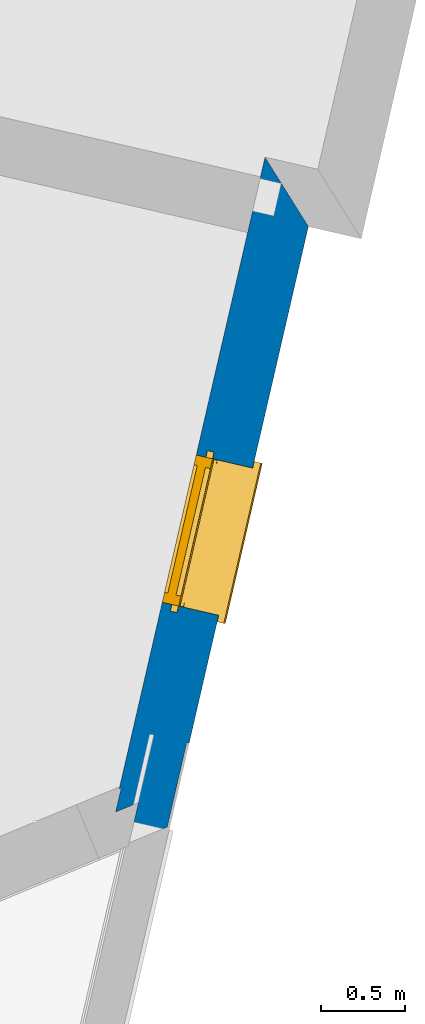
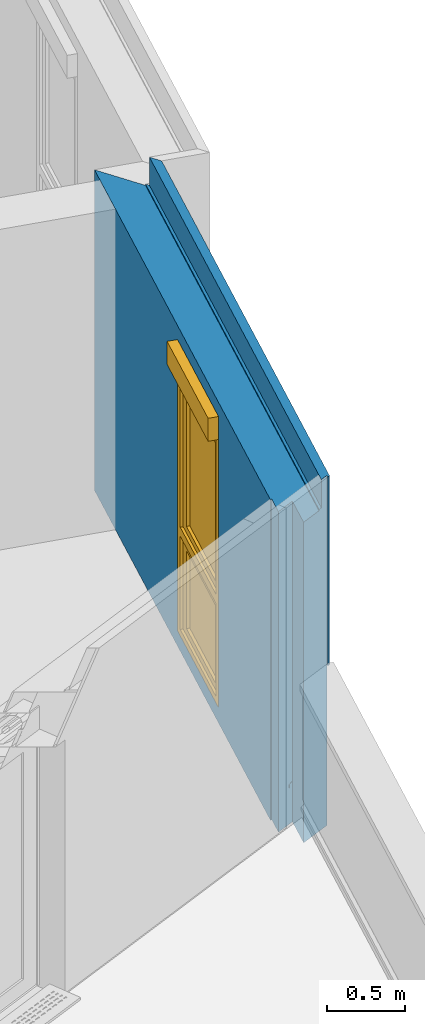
# One storey, part 6 of 62: 1 wall, 1 window, 1 opening.
"""IFC2X3 building model written with IfcOpenShell, lengths in metres."""

from ifc_helpers import new_model, entity, si_unit, converted_unit, derived_unit, money_unit, direction, frame, origin_with_axes, place, context, subcontext, project, spatial, open_shell, faceted_brep, surface_model, source, transform, mapped, material, material_list, type_object, element, fill, save


model = new_model("IFC2X3")

# Units and contexts
model_context = context("Model", 3, precision=1e-05, world=origin_with_axes(), true_north=direction((0.0, 1.0)))
body_context = subcontext(model_context, "Body", "Model", "MODEL_VIEW")
ifc_project = project(units=[si_unit("LENGTHUNIT", "METRE"), si_unit("AREAUNIT", "SQUARE_METRE"), si_unit("VOLUMEUNIT", "CUBIC_METRE"), converted_unit("PLANEANGLEUNIT", "DEGREE", entity("IfcPlaneAngleMeasure", 0.0174532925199), si_unit("PLANEANGLEUNIT", "RADIAN"), dimensions=[0, 0, 0, 0, 0, 0, 0]), si_unit("SOLIDANGLEUNIT", "STERADIAN"), money_unit("EUR"), converted_unit("TIMEUNIT", "Year", entity("IfcTimeMeasure", 31556926.0), si_unit("TIMEUNIT", "SECOND"), dimensions=[0, 0, 1, 0, 0, 0, 0]), si_unit("MASSUNIT", "GRAM", prefix="KILO"), si_unit("THERMODYNAMICTEMPERATUREUNIT", "DEGREE_CELSIUS"), si_unit("LUMINOUSINTENSITYUNIT", "LUMEN"), si_unit("ENERGYUNIT", "JOULE", prefix="MEGA"), derived_unit("THERMALCONDUCTANCEUNIT", [(si_unit("POWERUNIT", "WATT"), 1), (si_unit("LENGTHUNIT", "METRE"), -1), (si_unit("THERMODYNAMICTEMPERATUREUNIT", "KELVIN"), -1)]), derived_unit("SPECIFICHEATCAPACITYUNIT", [(si_unit("ENERGYUNIT", "JOULE"), 1), (si_unit("MASSUNIT", "GRAM", prefix="KILO"), -1), (si_unit("THERMODYNAMICTEMPERATUREUNIT", "KELVIN"), -1)]), derived_unit("MASSDENSITYUNIT", [(si_unit("MASSUNIT", "GRAM", prefix="KILO"), 1), (si_unit("VOLUMEUNIT", "CUBIC_METRE"), -1)])], contexts=[model_context])

# Site, building, storey
site_placement = place(None, origin_with_axes())
site = spatial("IfcSite", under=ifc_project, at=site_placement, Name="Site", CompositionType="ELEMENT")
building_placement = place(site_placement, origin_with_axes())
building = spatial("IfcBuilding", under=site, at=building_placement, Name="Bâtiment", CompositionType="ELEMENT")
storey_placement = place(building_placement, frame((0.0, 0.0, 8.16), z_axis=(0.0, 0.0, 1.0), x_axis=(1.0, 0.0, 0.0)))
storey = spatial("IfcBuildingStorey", under=building, at=storey_placement, Name="R+3", CompositionType="ELEMENT", Elevation=8.16)

# Wall, opening, window
ifc_material_1 = material(Name="Finition ext - Crépis")
ifc_material_2 = material(Name="Béton cellulaire")
ifc_material_3 = material(Name="Mortier")
ifc_material_4 = material(Name="Bloc ELITHERM")
ifc_material_5 = material(Name="Isolation - Polystyrène extrudé")
ifc_material_6 = material(Name="Finition int - Plaque de plâtre")
ifc_material_list = material_list([ifc_material_1, ifc_material_2, ifc_material_3, ifc_material_4, ifc_material_5, ifc_material_6])
wall_type = type_object("IfcWallType", Name="Mur ALKERN + planelle 23 345 x 2740", PredefinedType="USERDEFINED")
wall_placement = place(storey_placement, frame((-5.36567436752, -10.330394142, 0.0), z_axis=(0.0, 0.0, 1.0), x_axis=(-0.224876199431, -0.974387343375, 0.0)))
wall = element("IfcWall", 1, at=wall_placement, inside=storey, type_object=wall_type, material=ifc_material_list, Name="Mue bloc ALKERN isolé", ObjectType="SOLIDWALL", context=body_context, shape_type="Brep", body=[
    faceted_brep([(1.47550416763, -0.014999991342, 0.12), (1.47550416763, 0.0, 0.12), (1.47550416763, 0.0, 2.22), (1.47550416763, -0.014999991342, 2.22), (1.47550416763, -3.42726869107e-09, 0.06), (1.47550416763, -0.0149999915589, 0.06), (3.15680529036, 1.42903022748e-10, 0.282882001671), (3.15680529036, 1.42903022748e-10, 0.100000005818), (3.15680529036, 1.42903022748e-10, 0.0), (-3.42727268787e-09, -3.42726957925e-09, 0.0), (-3.42727268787e-09, -3.42726957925e-09, 2.74), (3.68069531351, 0.0, 2.74), (3.68069531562, 0.0, 1.26000604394), (3.15680529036, 1.42903022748e-10, 1.26000604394), (3.15680529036, 1.42903022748e-10, 0.357041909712), (3.15680529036, 1.42903022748e-10, 0.318976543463), (3.15680529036, 1.42903022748e-10, 0.30999999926), (2.37550416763, -3.42726780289e-09, 0.06), (2.37550416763, 0.0, 0.12), (2.37550416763, 0.0, 2.22), (2.37550416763, -0.014999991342, 2.22), (3.15680529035, -0.014999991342, 0.318976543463), (3.15680529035, -0.014999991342, 0.357041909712), (3.15680529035, -0.014999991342, 1.26000604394), (3.69140348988, -0.0149999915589, 1.26000604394), (3.69140348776, -0.0150000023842, 2.74), (-0.0146733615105, -0.0150000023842, 2.73999999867), (-0.0146733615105, -0.014999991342, 2.50999999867), (-0.0150000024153, -0.0150000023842, 2.50999999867), (-0.0150000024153, -0.0150000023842, 0.0), (3.15680529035, -0.014999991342, 0.0), (3.15680529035, -0.014999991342, 0.100000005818), (3.15680529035, -0.014999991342, 0.282882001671), (3.15680529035, -0.014999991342, 0.30999999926), (2.37550416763, -0.014999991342, 0.12), (2.37550416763, -0.0149999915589, 0.06), (-0.0146733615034, -0.014673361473, 2.50999999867), (-0.0146733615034, -0.014673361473, 2.73999999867)], [[[0, 1, 2, 3]], [[4, 1, 0, 5]], [[6, 7, 8, 9, 10, 11, 12, 13, 14, 15, 16], [17, 18, 19, 2, 1, 4]], [[19, 20, 3, 2]], [[21, 22, 23, 24, 25, 26, 27, 28, 29, 30, 31, 32, 33], [5, 0, 3, 20, 34, 35]], [[17, 4, 5, 35]], [[32, 31, 7, 6]], [[31, 30, 8, 7]], [[30, 29, 9, 8]], [[28, 36, 37, 10, 9, 29]], [[10, 37, 26, 25, 11]], [[12, 11, 25, 24]], [[12, 24, 23, 13]], [[13, 23, 22, 14]], [[22, 21, 15, 14]], [[21, 33, 16, 15]], [[33, 32, 6, 16]], [[34, 18, 17, 35]], [[18, 34, 20, 19]], [[36, 27, 26, 37]], [[36, 28, 27]]]),
    faceted_brep([(3.7072396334, -0.0630000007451, 2.74), (3.67297348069, -0.015, 2.74), (-0.0150000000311, -0.015, 2.74), (-0.0630000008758, -0.0630000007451, 2.74), (3.67297348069, -0.015, 2.52), (3.7072396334, -0.0630000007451, 2.52), (-0.0150000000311, -0.015, 2.51999999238), (-0.0630000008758, -0.0630000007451, 2.51999999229)], [[[0, 1, 2, 3]], [[4, 1, 0, 5]], [[1, 4, 6, 2]], [[7, 3, 2, 6]], [[5, 0, 3, 7]], [[4, 5, 7, 6]]]),
    faceted_brep([(3.72151719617, -0.082999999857, 2.52), (3.67297348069, -0.015, 2.52), (-0.0150000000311, -0.015, 2.51999999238), (-0.0829999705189, -0.0829999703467, 2.51999999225), (3.67297348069, -0.015, 2.50999999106), (3.72151719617, -0.082999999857, 2.50999999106), (-0.0150000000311, -0.015, 2.51000000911), (-0.0829999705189, -0.0829999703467, 2.50999997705)], [[[0, 1, 2, 3]], [[4, 1, 0, 5]], [[1, 4, 6, 2]], [[7, 3, 2, 6]], [[5, 0, 3, 7]], [[4, 5, 7, 6]]]),
    faceted_brep([(1.47550416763, -0.214999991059, 0.12), (1.47550416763, -0.015, 0.12), (1.47550416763, -0.015, 2.22), (1.47550416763, -0.214999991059, 2.22), (1.47550416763, -0.0150000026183, 0.06), (1.47550416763, -0.214999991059, 0.06), (3.67297348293, -0.0150000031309, 0.318976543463), (3.67297348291, -0.0150000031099, 0.30999999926), (3.67297348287, -0.0150000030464, 0.282882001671), (3.67297348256, -0.0150000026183, 0.100000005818), (3.6729734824, -0.0150000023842, 0.0), (-0.0150000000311, -0.015, 0.0), (-0.0150000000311, -0.015, 2.51000000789), (3.67297348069, -0.015, 2.50999999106), (3.6729734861, -0.0150000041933, 1.26000604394), (3.67297348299, -0.01500000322, 0.357041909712), (2.37550416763, -0.0150000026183, 0.06), (2.37550416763, -0.015, 0.12), (2.37550416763, -0.015, 2.22), (2.37550416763, -0.214999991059, 2.22), (-0.214999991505, -0.214999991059, 0.0), (3.81574910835, -0.214999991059, 0.0), (3.81574910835, -0.214999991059, 0.100000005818), (3.81574910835, -0.214999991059, 0.282882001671), (3.81574910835, -0.214999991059, 0.30999999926), (3.81574910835, -0.214999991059, 0.318976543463), (3.81574910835, -0.214999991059, 0.357041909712), (3.81574910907, -0.214999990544, 1.26000604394), (3.81574910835, -0.214999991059, 2.50999999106), (-0.214999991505, -0.214999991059, 2.50999999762), (2.37550416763, -0.214999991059, 0.12), (2.37550416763, -0.214999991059, 0.06), (-0.0829999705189, -0.0829999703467, 2.50999997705), (3.721517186, -0.0829999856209, 2.50999999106)], [[[0, 1, 2, 3]], [[4, 1, 0, 5]], [[6, 7, 8, 9, 10, 11, 12, 13, 14, 15], [16, 17, 18, 2, 1, 4]], [[18, 19, 3, 2]], [[20, 21, 22, 23, 24, 25, 26, 27, 28, 29], [5, 0, 3, 19, 30, 31]], [[16, 4, 5, 31]], [[25, 24, 7, 6]], [[24, 23, 8, 7]], [[23, 22, 9, 8]], [[22, 21, 10, 9]], [[21, 20, 11, 10]], [[11, 20, 29, 32, 12]], [[13, 12, 32, 33]], [[28, 27, 14, 13, 33]], [[27, 26, 15, 14]], [[26, 25, 6, 15]], [[30, 17, 16, 31]], [[17, 30, 19, 18]], [[33, 32, 29, 28]]]),
    faceted_brep([(1.47550416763, -0.245, 0.12), (1.47550416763, -0.215000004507, 0.12), (1.47550416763, -0.215, 2.22), (1.47550416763, -0.245, 2.22), (1.47550416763, -0.215000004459, 0.06), (1.47550416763, -0.286, 0.12), (1.47550416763, -0.286, 0.06), (3.57001576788, -0.214999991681, 0.282882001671), (3.57001576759, -0.214999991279, 0.100000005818), (3.57001576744, -0.214999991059, 0.0), (-0.215000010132, -0.215000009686, 0.0), (-0.215000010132, -0.215000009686, 2.50999999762), (3.5700157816, -0.215000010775, 2.50999999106), (3.57001576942, -0.21499999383, 1.26000604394), (3.570015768, -0.214999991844, 0.357041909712), (3.15680529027, -0.214999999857, 0.357041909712), (3.15680529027, -0.214999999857, 0.318976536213), (3.57001576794, -0.214999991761, 0.318976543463), (3.57001576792, -0.214999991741, 0.30999999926), (2.37550416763, -0.215000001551, 0.06), (2.37550416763, -0.215000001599, 0.12), (2.37550416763, -0.215, 2.22), (2.37550416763, -0.215, 2.4), (1.47550416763, -0.215, 2.4), (1.47550416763, -0.335000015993, 2.4), (1.47550416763, -0.335000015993, 2.22), (1.47550416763, -0.335000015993, 0.12), (2.37550416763, -0.286, 0.12), (2.37550416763, -0.286, 0.06), (3.58963646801, -0.242484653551, 0.282882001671), (3.65568116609, -0.335000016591, 0.282882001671), (3.65568116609, -0.335000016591, 0.100000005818), (3.58875548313, -0.241250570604, 0.282882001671), (3.65568116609, -0.335000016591, 0.0), (-0.335000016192, -0.335000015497, 0.0), (-0.335000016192, -0.335000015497, 2.51000001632), (3.65568116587, -0.335000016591, 2.50999999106), (3.65568116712, -0.335000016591, 1.26000604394), (3.5707620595, -0.216045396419, 0.357041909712), (3.65568116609, -0.335000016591, 0.357041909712), (3.15680529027, -0.216045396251, 0.357041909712), (3.15680529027, -0.216045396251, 0.320023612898), (3.15680529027, -0.219574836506, 0.318976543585), (3.15680529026, -0.241250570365, 0.311101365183), (3.58875548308, -0.241250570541, 0.311101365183), (3.58875548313, -0.241250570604, 0.30999999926), (2.37550416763, -0.245, 0.12), (2.37550416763, -0.245, 2.22), (2.37550416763, -0.33500001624, 2.22), (2.37550416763, -0.33500001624, 2.4), (3.65568116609, -0.335000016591, 0.30999999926), (3.65568116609, -0.335000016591, 0.318976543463), (2.37550416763, -0.33500001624, 0.12), (3.58963646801, -0.242484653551, 0.30999999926), (3.15680529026, -0.242484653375, 0.282882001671), (3.15680529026, -0.241250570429, 0.282882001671), (3.57328165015, -0.219574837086, 0.318976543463), (3.5707620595, -0.216045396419, 0.320023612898), (3.15680529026, -0.242484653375, 0.312179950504), (3.15680529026, -0.242484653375, 0.30999999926), (3.15680529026, -0.241250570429, 0.30999999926), (3.58963646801, -0.242484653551, 0.312179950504)], [[[0, 1, 2, 3]], [[4, 1, 0, 5, 6]], [[7, 8, 9, 10, 11, 12, 13, 14, 15, 16, 17, 18], [19, 20, 21, 22, 23, 2, 1, 4]], [[24, 25, 3, 2, 23]], [[5, 0, 3, 25, 26]], [[5, 27, 28, 6]], [[19, 4, 6, 28]], [[29, 30, 31, 8, 7, 32]], [[8, 31, 33, 9]], [[10, 9, 33, 34]], [[11, 10, 34, 35]], [[35, 36, 12, 11]], [[12, 36, 37, 13]], [[38, 14, 13, 37, 39]], [[15, 14, 38, 40]], [[16, 15, 40, 41, 42]], [[43, 44, 17, 16]], [[17, 44, 45, 18]], [[18, 45, 32, 7]], [[46, 20, 19, 28, 27]], [[20, 46, 47, 21]], [[47, 48, 49, 22, 21]], [[22, 49, 24, 23]], [[36, 35, 34, 33, 31, 30, 50, 51, 39, 37], [26, 25, 24, 49, 48, 52]], [[27, 5, 26, 52]], [[53, 50, 30, 29]], [[54, 29, 32, 55]], [[56, 57, 38, 39, 51]], [[40, 38, 57, 41]], [[41, 57, 56, 42]], [[58, 59, 60, 43, 16, 42]], [[60, 45, 44, 43]], [[55, 32, 45, 60]], [[46, 27, 52, 48, 47]], [[53, 61, 56, 51, 50]], [[59, 53, 29, 54]], [[54, 55, 60, 59]], [[42, 56, 61, 58]], [[58, 61, 53, 59]]]),
    faceted_brep([(3.50824112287, -0.335000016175, 0.318976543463), (3.50824112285, -0.335000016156, 0.30999999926), (3.50824112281, -0.335000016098, 0.282882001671), (3.50824112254, -0.33500001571, 0.100000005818), (3.50824112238, -0.335000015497, 0.0), (-0.335000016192, -0.335000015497, 0.0), (-0.335000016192, -0.335000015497, 2.51000001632), (3.50824112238, -0.335000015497, 2.51), (3.50824112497, -0.335000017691, 1.26000604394), (3.50824112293, -0.335000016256, 0.357041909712), (2.37550416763, -0.335000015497, 2.22), (2.37550416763, -0.33500001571, 2.4), (1.47550416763, -0.33500001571, 2.4), (1.47550416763, -0.335000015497, 2.22), (1.47550416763, -0.335000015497, 0.12), (2.37550416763, -0.335000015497, 0.12), (3.51537987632, -0.344999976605, 0.318976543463), (3.51537987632, -0.344999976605, 0.30999999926), (3.51537987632, -0.344999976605, 0.282882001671), (3.51537987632, -0.344999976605, 0.100000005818), (3.51537988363, -0.344999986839, 0.0), (-0.344999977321, -0.344999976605, 0.0), (-0.344999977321, -0.344999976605, 2.51000001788), (3.51537988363, -0.344999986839, 2.51), (3.51537987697, -0.344999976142, 1.26000604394), (3.51537987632, -0.344999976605, 0.357041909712), (2.37550416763, -0.344999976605, 2.22), (2.37550416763, -0.344999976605, 2.4), (1.47550416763, -0.344999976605, 2.4), (1.47550416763, -0.344999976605, 2.22), (1.47550416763, -0.344999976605, 0.12), (2.37550416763, -0.344999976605, 0.12)], [[[0, 1, 2, 3, 4, 5, 6, 7, 8, 9], [10, 11, 12, 13, 14, 15]], [[16, 17, 1, 0]], [[17, 18, 2, 1]], [[18, 19, 3, 2]], [[19, 20, 4, 3]], [[20, 21, 5, 4]], [[22, 6, 5, 21]], [[7, 6, 22, 23]], [[7, 23, 24, 8]], [[24, 25, 9, 8]], [[25, 16, 0, 9]], [[11, 10, 26, 27]], [[12, 11, 27, 28]], [[13, 12, 28, 29]], [[13, 29, 30, 14]], [[14, 30, 31, 15]], [[26, 10, 15, 31]], [[21, 20, 19, 18, 17, 16, 25, 24, 23, 22], [27, 26, 31, 30, 29, 28]]]),
])
opening_placement = place(wall_placement, frame((1.92550416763, 0.0, 0.12), z_axis=(0.0, 0.0, 1.0), x_axis=(1.0, 0.0, 0.0)))
opening = element("IfcOpeningElement", 2, at=opening_placement, cuts=wall, Name="MEN 122", context=body_context, shape_type="Brep", body=[
    faceted_brep([(0.45, -0.83499998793, 0.0), (-0.45, -0.83499998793, 0.0), (-0.45, -0.245, 0.0), (0.45, -0.245, 0.0), (0.45, -0.83499998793, 2.1), (-0.45, -0.83499998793, 2.1), (-0.45, -0.245, 2.1), (0.45, -0.245, 2.1)], [[[0, 1, 2, 3]], [[0, 4, 5, 1]], [[1, 5, 6, 2]], [[3, 2, 6, 7]], [[4, 0, 3, 7]], [[5, 4, 7, 6]]]),
    faceted_brep([(0.45, 0.34499998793, 0.0), (0.45, 0.34499998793, 2.1), (0.45, -0.245, 2.1), (0.45, -0.245, 0.0), (-0.45, 0.34499998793, 0.0), (-0.45, 0.34499998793, 2.1), (-0.45, -0.245, 2.1), (-0.45, -0.245, 0.0)], [[[0, 1, 2, 3]], [[0, 4, 5, 1]], [[1, 5, 6, 2]], [[3, 2, 6, 7]], [[4, 0, 3, 7]], [[5, 4, 7, 6]]]),
    faceted_brep([(0.45, 0.34499998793, 0.0), (0.45, 0.34499998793, 2.1), (0.45, -0.245, 2.1), (0.45, -0.245, 0.0), (-0.45, 0.34499998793, 0.0), (-0.45, 0.34499998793, 2.1), (-0.45, -0.245, 2.1), (-0.45, -0.245, 0.0)], [[[0, 1, 2, 3]], [[0, 4, 5, 1]], [[1, 5, 6, 2]], [[3, 2, 6, 7]], [[4, 0, 3, 7]], [[5, 4, 7, 6]]]),
    faceted_brep([(0.45, -0.80499998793, 2.1), (-0.45, -0.80499998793, 2.1), (-0.45, -0.215, 2.1), (0.45, -0.215, 2.1), (0.45, -0.80499998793, 2.28), (-0.45, -0.80499998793, 2.28), (-0.45, -0.215, 2.28), (0.45, -0.215, 2.28)], [[[0, 1, 2, 3]], [[0, 4, 5, 1]], [[1, 5, 6, 2]], [[3, 2, 6, 7]], [[4, 0, 3, 7]], [[5, 4, 7, 6]]]),
    faceted_brep([(0.45, 0.30399998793, 0.0), (-0.45, 0.30399998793, 0.0), (-0.45, -0.286, 0.0), (0.45, -0.286, 0.0), (0.45, 0.30399998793, -0.06), (-0.45, 0.30399998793, -0.06), (-0.45, -0.286, -0.06), (0.45, -0.286, -0.06)], [[[0, 1, 2, 3]], [[0, 4, 5, 1]], [[1, 5, 6, 2]], [[3, 2, 6, 7]], [[4, 0, 3, 7]], [[5, 4, 7, 6]]]),
])
window_style = type_object("IfcWindowStyle", Name="Baie générique 2017 v2", ConstructionType="NOTDEFINED", OperationType="NOTDEFINED", ParameterTakesPrecedence=False, Sizeable=False)
shared_shape = source(origin_with_axes(), body_context, "Body", "SurfaceModel", [
    faceted_brep([(-0.45, 0.0, 2.1), (-0.45, 0.0, 0.0), (0.45, 0.0, 0.0), (0.45, 0.0, 2.1), (0.39, 0.0, 0.85), (-0.39, 0.0, 0.85), (-0.39, 0.0, 2.05), (0.39, 0.0, 2.05), (0.39, 0.0, 0.78), (0.39, 0.0, 0.05), (-0.39, 0.0, 0.05), (-0.39, 0.0, 0.78), (-0.45, 0.1, 2.1), (-0.45, 0.1, 0.0), (0.45, 0.1, 0.0), (0.45, 0.1, 2.1), (0.39, 0.1, 0.85), (-0.39, 0.1, 0.85), (-0.39, 0.1, 2.05), (0.39, 0.1, 2.05), (0.39, 0.1, 0.78), (0.39, 0.1, 0.05), (-0.39, 0.1, 0.05), (-0.39, 0.1, 0.78)], [[[0, 1, 2, 3], [4, 5, 6, 7], [8, 9, 10, 11]], [[0, 12, 13, 1]], [[1, 13, 14, 2]], [[2, 14, 15, 3]], [[3, 15, 12, 0]], [[4, 16, 17, 5]], [[5, 17, 18, 6]], [[6, 18, 19, 7]], [[16, 4, 7, 19]], [[8, 20, 21, 9]], [[9, 21, 22, 10]], [[23, 11, 10, 22]], [[20, 8, 11, 23]], [[14, 13, 12, 15], [16, 19, 18, 17], [20, 23, 22, 21]]]),
    faceted_brep([(0.39, 0.08, 2.05), (0.39, 0.08, 0.85), (-0.39, 0.08, 0.85), (-0.39, 0.08, 2.05), (0.32, 0.08, 1.98), (-0.32, 0.08, 1.98), (-0.32, 0.08, 0.9), (0.32, 0.08, 0.9), (0.39, 0.03, 2.05), (0.39, 0.03, 0.85), (-0.39, 0.03, 0.85), (-0.39, 0.03, 2.05), (0.32, 0.03, 1.98), (-0.32, 0.03, 1.98), (-0.32, 0.03, 0.9), (0.32, 0.03, 0.9)], [[[0, 1, 2, 3], [4, 5, 6, 7]], [[1, 0, 8, 9]], [[10, 2, 1, 9]], [[11, 3, 2, 10]], [[0, 3, 11, 8]], [[5, 4, 12, 13]], [[14, 6, 5, 13]], [[15, 7, 6, 14]], [[4, 7, 15, 12]], [[11, 10, 9, 8], [15, 14, 13, 12]]]),
    surface_model("IfcShellBasedSurfaceModel", [(-0.39, 0.08, 0.85), (-0.39, 0.055, 0.85), (-0.39, 0.055, 2.05), (-0.39, 0.08, 2.05)], [open_shell([[[0, 1, 2, 3]]])]),
    surface_model("IfcShellBasedSurfaceModel", [(0.39, 0.08, 0.85), (0.39, 0.055, 0.85), (0.39, 0.055, 2.05), (0.39, 0.08, 2.05)], [open_shell([[[0, 1, 2, 3]]])]),
    surface_model("IfcShellBasedSurfaceModel", [(-0.39, 0.08, 0.85), (-0.39, 0.055, 0.85), (0.39, 0.055, 0.85), (0.39, 0.08, 0.85)], [open_shell([[[0, 1, 2, 3]]])]),
    surface_model("IfcShellBasedSurfaceModel", [(-0.39, 0.08, 2.05), (-0.39, 0.055, 2.05), (0.39, 0.055, 2.05), (0.39, 0.08, 2.05)], [open_shell([[[0, 1, 2, 3]]])]),
    surface_model("IfcShellBasedSurfaceModel", [(-0.39, 0.055, 0.85), (-0.39, 0.03, 0.85), (-0.39, 0.03, 2.05), (-0.39, 0.055, 2.05)], [open_shell([[[0, 1, 2, 3]]])]),
    surface_model("IfcShellBasedSurfaceModel", [(0.39, 0.055, 0.85), (0.39, 0.03, 0.85), (0.39, 0.03, 2.05), (0.39, 0.055, 2.05)], [open_shell([[[0, 1, 2, 3]]])]),
    surface_model("IfcShellBasedSurfaceModel", [(-0.39, 0.055, 0.85), (-0.39, 0.03, 0.85), (0.39, 0.03, 0.85), (0.39, 0.055, 0.85)], [open_shell([[[0, 1, 2, 3]]])]),
    surface_model("IfcShellBasedSurfaceModel", [(-0.39, 0.055, 2.05), (-0.39, 0.03, 2.05), (0.39, 0.03, 2.05), (0.39, 0.055, 2.05)], [open_shell([[[0, 1, 2, 3]]])]),
    faceted_brep([(-0.32, 0.0575, 0.9), (0.32, 0.0575, 0.9), (0.32, 0.0525, 0.9), (-0.32, 0.0525, 0.9), (-0.32, 0.0575, 1.98), (0.32, 0.0575, 1.98), (0.32, 0.0525, 1.98), (-0.32, 0.0525, 1.98)], [[[0, 1, 2, 3]], [[0, 4, 5, 1]], [[1, 5, 6, 2]], [[3, 2, 6, 7]], [[4, 0, 3, 7]], [[5, 4, 7, 6]]]),
    faceted_brep([(0.39, 0.08, 0.78), (0.39, 0.08, 0.05), (-0.39, 0.08, 0.05), (-0.39, 0.08, 0.78), (0.32, 0.08, 0.71), (-0.32, 0.08, 0.71), (-0.32, 0.08, 0.1), (0.32, 0.08, 0.1), (0.39, 0.03, 0.78), (0.39, 0.03, 0.05), (-0.39, 0.03, 0.05), (-0.39, 0.03, 0.78), (0.32, 0.03, 0.71), (-0.32, 0.03, 0.71), (-0.32, 0.03, 0.1), (0.32, 0.03, 0.1)], [[[0, 1, 2, 3], [4, 5, 6, 7]], [[1, 0, 8, 9]], [[10, 2, 1, 9]], [[11, 3, 2, 10]], [[0, 3, 11, 8]], [[5, 4, 12, 13]], [[14, 6, 5, 13]], [[15, 7, 6, 14]], [[4, 7, 15, 12]], [[11, 10, 9, 8], [15, 14, 13, 12]]]),
    surface_model("IfcShellBasedSurfaceModel", [(-0.39, 0.08, 0.05), (-0.39, 0.055, 0.05), (-0.39, 0.055, 0.78), (-0.39, 0.08, 0.78)], [open_shell([[[0, 1, 2, 3]]])]),
    surface_model("IfcShellBasedSurfaceModel", [(0.39, 0.08, 0.05), (0.39, 0.055, 0.05), (0.39, 0.055, 0.78), (0.39, 0.08, 0.78)], [open_shell([[[0, 1, 2, 3]]])]),
    surface_model("IfcShellBasedSurfaceModel", [(-0.39, 0.08, 0.05), (-0.39, 0.055, 0.05), (0.39, 0.055, 0.05), (0.39, 0.08, 0.05)], [open_shell([[[0, 1, 2, 3]]])]),
    surface_model("IfcShellBasedSurfaceModel", [(-0.39, 0.08, 0.78), (-0.39, 0.055, 0.78), (0.39, 0.055, 0.78), (0.39, 0.08, 0.78)], [open_shell([[[0, 1, 2, 3]]])]),
    surface_model("IfcShellBasedSurfaceModel", [(-0.39, 0.055, 0.05), (-0.39, 0.03, 0.05), (-0.39, 0.03, 0.78), (-0.39, 0.055, 0.78)], [open_shell([[[0, 1, 2, 3]]])]),
    surface_model("IfcShellBasedSurfaceModel", [(0.39, 0.055, 0.05), (0.39, 0.03, 0.05), (0.39, 0.03, 0.78), (0.39, 0.055, 0.78)], [open_shell([[[0, 1, 2, 3]]])]),
    surface_model("IfcShellBasedSurfaceModel", [(-0.39, 0.055, 0.05), (-0.39, 0.03, 0.05), (0.39, 0.03, 0.05), (0.39, 0.055, 0.05)], [open_shell([[[0, 1, 2, 3]]])]),
    surface_model("IfcShellBasedSurfaceModel", [(-0.39, 0.055, 0.78), (-0.39, 0.03, 0.78), (0.39, 0.03, 0.78), (0.39, 0.055, 0.78)], [open_shell([[[0, 1, 2, 3]]])]),
    faceted_brep([(-0.32, 0.0575, 0.1), (0.32, 0.0575, 0.1), (0.32, 0.0525, 0.1), (-0.32, 0.0525, 0.1), (-0.32, 0.0575, 0.71), (0.32, 0.0575, 0.71), (0.32, 0.0525, 0.71), (-0.32, 0.0525, 0.71)], [[[0, 1, 2, 3]], [[0, 4, 5, 1]], [[1, 5, 6, 2]], [[3, 2, 6, 7]], [[4, 0, 3, 7]], [[5, 4, 7, 6]]]),
    faceted_brep([(-0.45, -0.03, 0.0), (-0.425, -0.03, 0.0), (-0.425, -0.03, 2.1), (-0.45, -0.03, 2.1), (-0.45, -0.002, 0.0), (-0.425, -0.002, 0.0), (-0.425, -0.004, 0.0), (-0.448, -0.004, 0.0), (-0.448, -0.028, 0.0), (-0.425, -0.028, 0.0), (-0.425, -0.028, 2.1), (-0.448, -0.028, 2.1), (-0.448, -0.004, 2.1), (-0.425, -0.004, 2.1), (-0.425, -0.002, 2.1), (-0.45, -0.002, 2.1)], [[[0, 1, 2, 3]], [[0, 4, 5, 6, 7, 8, 9, 1]], [[1, 9, 10, 2]], [[3, 2, 10, 11, 12, 13, 14, 15]], [[4, 0, 3, 15]], [[5, 4, 15, 14]], [[6, 5, 14, 13]], [[7, 6, 13, 12]], [[8, 7, 12, 11]], [[9, 8, 11, 10]]]),
    faceted_brep([(0.45, -0.03, 0.0), (0.45, -0.03, 2.1), (0.425, -0.03, 2.1), (0.425, -0.03, 0.0), (0.45, -0.002, 0.0), (0.45, -0.002, 2.1), (0.425, -0.002, 2.1), (0.425, -0.004, 2.1), (0.448, -0.004, 2.1), (0.448, -0.028, 2.1), (0.425, -0.028, 2.1), (0.425, -0.028, 0.0), (0.448, -0.028, 0.0), (0.448, -0.004, 0.0), (0.425, -0.004, 0.0), (0.425, -0.002, 0.0)], [[[0, 1, 2, 3]], [[4, 5, 1, 0]], [[1, 5, 6, 7, 8, 9, 10, 2]], [[3, 2, 10, 11]], [[0, 3, 11, 12, 13, 14, 15, 4]], [[15, 6, 5, 4]], [[14, 7, 6, 15]], [[13, 8, 7, 14]], [[12, 9, 8, 13]], [[11, 10, 9, 12]]]),
    faceted_brep([(0.448, -0.028, 2.1), (-0.448, -0.028, 2.1), (-0.448, -0.028, 2.278), (0.448, -0.028, 2.278), (0.448, -0.03, 2.1), (-0.448, -0.03, 2.1), (-0.448, -0.03, 2.28), (-0.448, 0.17, 2.28), (-0.448, 0.17, 2.1), (-0.448, 0.168, 2.1), (-0.448, 0.168, 2.278), (0.448, 0.168, 2.278), (0.448, 0.168, 2.1), (0.448, 0.17, 2.1), (0.448, 0.17, 2.28), (0.448, -0.03, 2.28)], [[[0, 1, 2, 3]], [[4, 5, 1, 0]], [[1, 5, 6, 7, 8, 9, 10, 2]], [[3, 2, 10, 11]], [[0, 3, 11, 12, 13, 14, 15, 4]], [[15, 6, 5, 4]], [[14, 7, 6, 15]], [[13, 8, 7, 14]], [[12, 9, 8, 13]], [[11, 10, 9, 12]]]),
    faceted_brep([(0.448, 0.0724697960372, 2.17436337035), (0.448, 0.08, 2.19), (0.448, 0.0724697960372, 2.20563662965), (0.448, 0.0555495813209, 2.20949855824), (0.448, 0.041980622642, 2.19867767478), (0.448, 0.041980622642, 2.18132232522), (0.448, 0.0555495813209, 2.17050144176), (-0.448, 0.0724697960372, 2.17436337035), (-0.448, 0.08, 2.19), (-0.448, 0.0724697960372, 2.20563662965), (-0.448, 0.0555495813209, 2.20949855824), (-0.448, 0.041980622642, 2.19867767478), (-0.448, 0.041980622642, 2.18132232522), (-0.448, 0.0555495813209, 2.17050144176)], [[[0, 1, 2, 3, 4, 5, 6]], [[0, 7, 8, 1]], [[1, 8, 9, 2]], [[2, 9, 10, 3]], [[3, 10, 11, 4]], [[4, 11, 12, 5]], [[5, 12, 13, 6]], [[6, 13, 7, 0]], [[7, 13, 12, 11, 10, 9, 8]]]),
    faceted_brep([(0.438, 0.130275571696, 2.15615706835), (0.438, 0.138, 2.19), (0.438, 0.130275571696, 2.22384293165), (0.438, 0.108632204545, 2.25098285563), (0.438, 0.0773566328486, 2.26604437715), (0.438, 0.0426433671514, 2.26604437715), (0.438, 0.011367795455, 2.25098285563), (0.438, -0.0102755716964, 2.22384293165), (0.438, -0.018, 2.19), (0.438, -0.0102755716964, 2.15615706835), (0.438, 0.011367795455, 2.12901714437), (0.438, 0.0426433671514, 2.11395562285), (0.438, 0.0773566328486, 2.11395562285), (0.438, 0.108632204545, 2.12901714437), (-0.438, 0.130275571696, 2.15615706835), (-0.438, 0.138, 2.19), (-0.438, 0.130275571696, 2.22384293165), (-0.438, 0.108632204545, 2.25098285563), (-0.438, 0.0773566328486, 2.26604437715), (-0.438, 0.0426433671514, 2.26604437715), (-0.438, 0.011367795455, 2.25098285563), (-0.438, -0.0102755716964, 2.22384293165), (-0.438, -0.018, 2.19), (-0.438, -0.0102755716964, 2.15615706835), (-0.438, 0.011367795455, 2.12901714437), (-0.438, 0.0426433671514, 2.11395562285), (-0.438, 0.0773566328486, 2.11395562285), (-0.438, 0.108632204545, 2.12901714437)], [[[0, 1, 2, 3, 4, 5, 6, 7, 8, 9, 10, 11, 12, 13]], [[0, 14, 15, 1]], [[1, 15, 16, 2]], [[2, 16, 17, 3]], [[3, 17, 18, 4]], [[4, 18, 19, 5]], [[5, 19, 20, 6]], [[6, 20, 21, 7]], [[7, 21, 22, 8]], [[8, 22, 23, 9]], [[9, 23, 24, 10]], [[10, 24, 25, 11]], [[11, 25, 26, 12]], [[12, 26, 27, 13]], [[13, 27, 14, 0]], [[14, 27, 26, 25, 24, 23, 22, 21, 20, 19, 18, 17, 16, 15]]]),
    faceted_brep([(0.45, 0.17, 2.1), (0.448, 0.17, 2.1), (0.448, 0.17, 2.28), (0.45, 0.17, 2.28), (0.45, -0.03, 2.1), (0.448, -0.03, 2.1), (0.448, -0.03, 2.28), (0.45, -0.03, 2.28)], [[[0, 1, 2, 3]], [[4, 5, 1, 0]], [[1, 5, 6, 2]], [[3, 2, 6, 7]], [[0, 3, 7, 4]], [[7, 6, 5, 4]]]),
    faceted_brep([(-0.448, 0.17, 2.1), (-0.45, 0.17, 2.1), (-0.45, 0.17, 2.28), (-0.448, 0.17, 2.28), (-0.448, -0.03, 2.1), (-0.45, -0.03, 2.1), (-0.45, -0.03, 2.28), (-0.448, -0.03, 2.28)], [[[0, 1, 2, 3]], [[4, 5, 1, 0]], [[1, 5, 6, 2]], [[3, 2, 6, 7]], [[0, 3, 7, 4]], [[7, 6, 5, 4]]]),
    faceted_brep([(0.448, -0.004, 2.1), (-0.448, -0.004, 2.1), (-0.448, 0.168, 2.1), (0.448, 0.168, 2.1), (0.448, -0.004, 2.102), (-0.448, -0.004, 2.102), (-0.448, 0.168, 2.102), (0.448, 0.168, 2.102)], [[[0, 1, 2, 3]], [[4, 5, 1, 0]], [[1, 5, 6, 2]], [[3, 2, 6, 7]], [[0, 3, 7, 4]], [[7, 6, 5, 4]]]),
    faceted_brep([(-0.438, -0.006, 2.1), (-0.438, -0.006, 2.19), (0.438, -0.006, 2.19), (0.438, -0.006, 2.1), (-0.438, -0.026, 2.1), (-0.438, -0.026, 2.19), (0.438, -0.026, 2.19), (0.438, -0.026, 2.1)], [[[0, 1, 2, 3]], [[1, 0, 4, 5]], [[2, 1, 5, 6]], [[3, 2, 6, 7]], [[4, 0, 3, 7]], [[5, 4, 7, 6]]]),
    faceted_brep([(0.45, -0.00167949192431, -0.01), (0.45, 0.0, -0.00373205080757), (0.49, 0.0, -0.00373205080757), (0.49, 0.001, 0.0), (-0.49, 0.001, 0.0), (-0.49, 0.0, -0.00373205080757), (-0.45, 0.0, -0.00373205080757), (-0.45, -0.00167949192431, -0.01), (0.45, -0.009, -0.0173205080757), (0.45, -0.019, -0.02), (0.45, -0.245, -0.02), (0.45, -0.245, -0.06), (0.45, 0.0, -0.06), (0.49, 0.0, -0.06), (0.49, 0.041, -0.06), (0.49, 0.041, 0.0), (-0.49, 0.041, 0.0), (-0.49, 0.041, -0.06), (-0.49, 0.0, -0.06), (-0.45, 0.0, -0.06), (-0.45, -0.245, -0.02), (-0.45, -0.019, -0.02), (-0.45, -0.009, -0.0173205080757), (-0.45, -0.245, -0.06), (-0.49, -0.245, -0.02), (-0.49, -0.285, -0.02), (0.49, -0.285, -0.02), (0.49, -0.245, -0.02), (0.49, -0.245, -0.06), (0.49, -0.275, -0.06), (-0.49, -0.275, -0.06), (-0.49, -0.245, -0.06), (-0.49, -0.295, -0.03), (-0.49, -0.292071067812, -0.0229289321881), (-0.49, -0.275, -0.05), (-0.49, -0.285, -0.05), (-0.49, -0.285, -0.06), (-0.49, -0.295, -0.06), (0.49, -0.292071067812, -0.0229289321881), (0.49, -0.295, -0.03), (0.49, -0.295, -0.06), (0.49, -0.285, -0.06), (0.49, -0.285, -0.05), (0.49, -0.275, -0.05)], [[[0, 1, 2, 3, 4, 5, 6, 7]], [[1, 0, 8, 9, 10, 11, 12]], [[13, 2, 1, 12]], [[2, 13, 14, 15, 3]], [[16, 4, 3, 15]], [[4, 16, 17, 18, 5]], [[5, 18, 19, 6]], [[20, 21, 22, 7, 6, 19, 23]], [[8, 0, 7, 22]], [[9, 8, 22, 21]], [[10, 9, 21, 20, 24, 25, 26, 27]], [[10, 27, 28, 11]], [[11, 28, 29, 30, 31, 23, 19, 18, 17, 14, 13, 12]], [[17, 16, 15, 14]], [[20, 23, 31, 24]], [[32, 33, 25, 24, 31, 30, 34, 35, 36, 37]], [[25, 33, 38, 26]], [[28, 27, 26, 38, 39, 40, 41, 42, 43, 29]], [[34, 30, 29, 43]], [[33, 32, 39, 38]], [[35, 34, 43, 42]], [[36, 35, 42, 41]], [[37, 36, 41, 40]], [[32, 37, 40, 39]]]),
])
window_placement = place(opening_placement, frame((0.45, 0.0, 0.0), z_axis=(0.0, 0.0, 1.0), x_axis=(-1.0, 0.0, 0.0)))
window = element("IfcWindow", 3, at=window_placement, inside=storey, type_object=window_style, Name="MEN 122", ObjectType="WINDOW", OverallHeight=2.1, OverallWidth=0.9, context=body_context, shape_type="MappedRepresentation", body=[
    mapped(shared_shape, transform((0.45, 0.245, 0.0))),
])
fill(opening, window)

save(model, "model.ifc")
